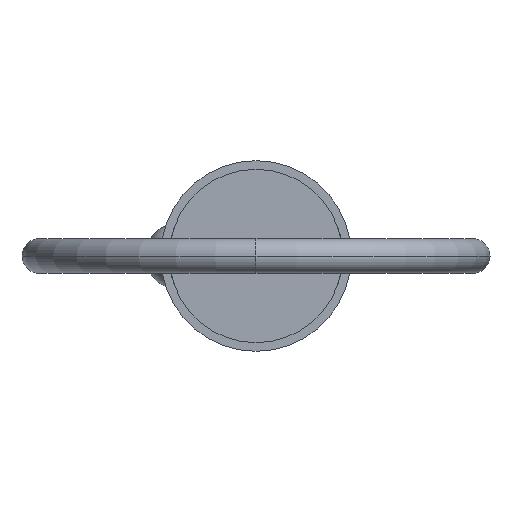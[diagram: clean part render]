
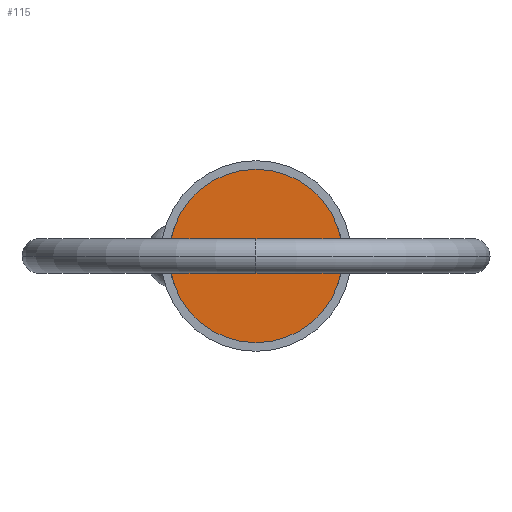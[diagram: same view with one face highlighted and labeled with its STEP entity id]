
A CAD part, left-side view. The second image highlights one B-rep face of the part: STEP entity #115.
In plain terms, the highlighted planar face has unit normal (-1, 0, 0).
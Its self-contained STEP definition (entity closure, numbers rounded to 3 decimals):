
#48 = FACE_OUTER_BOUND ( 'NONE', #425, .T. ) ;
#52 = EDGE_CURVE ( 'NONE', #934, #452, #801, .T. ) ;
#56 = DIRECTION ( 'NONE',  ( -1., 0., 0. ) ) ;
#115 = ADVANCED_FACE ( 'NONE', ( #48 ), #810, .T. ) ;
#140 = CARTESIAN_POINT ( 'NONE',  ( 0., 0., 0. ) ) ;
#163 = CARTESIAN_POINT ( 'NONE',  ( 0., 0., 0. ) ) ;
#222 = DIRECTION ( 'NONE',  ( 0., 0., -1. ) ) ;
#284 = ORIENTED_EDGE ( 'NONE', *, *, #627, .F. ) ;
#288 = AXIS2_PLACEMENT_3D ( 'NONE', #140, #985, #222 ) ;
#312 = CIRCLE ( 'NONE', #928, 12.7 ) ;
#378 = DIRECTION ( 'NONE',  ( 0., 0., 1. ) ) ;
#425 = EDGE_LOOP ( 'NONE', ( #773, #284 ) ) ;
#452 = VERTEX_POINT ( 'NONE', #478 ) ;
#478 = CARTESIAN_POINT ( 'NONE',  ( 0., 0., 12.7 ) ) ;
#484 = CARTESIAN_POINT ( 'NONE',  ( 0., 0., 0. ) ) ;
#627 = EDGE_CURVE ( 'NONE', #452, #934, #312, .T. ) ;
#673 = DIRECTION ( 'NONE',  ( 1., 0., 0. ) ) ;
#773 = ORIENTED_EDGE ( 'NONE', *, *, #52, .F. ) ;
#801 = CIRCLE ( 'NONE', #288, 12.7 ) ;
#810 = PLANE ( 'NONE',  #1033 ) ;
#920 = DIRECTION ( 'NONE',  ( 0., 0., -1. ) ) ;
#928 = AXIS2_PLACEMENT_3D ( 'NONE', #163, #673, #920 ) ;
#934 = VERTEX_POINT ( 'NONE', #977 ) ;
#977 = CARTESIAN_POINT ( 'NONE',  ( 0., 0., -12.7 ) ) ;
#985 = DIRECTION ( 'NONE',  ( 1., 0., 0. ) ) ;
#1033 = AXIS2_PLACEMENT_3D ( 'NONE', #484, #56, #378 ) ;
